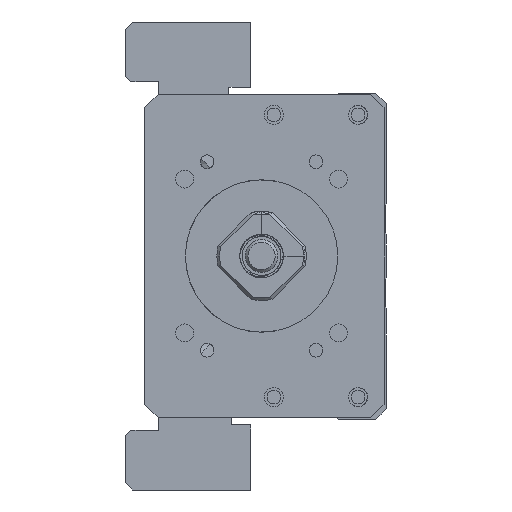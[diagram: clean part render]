
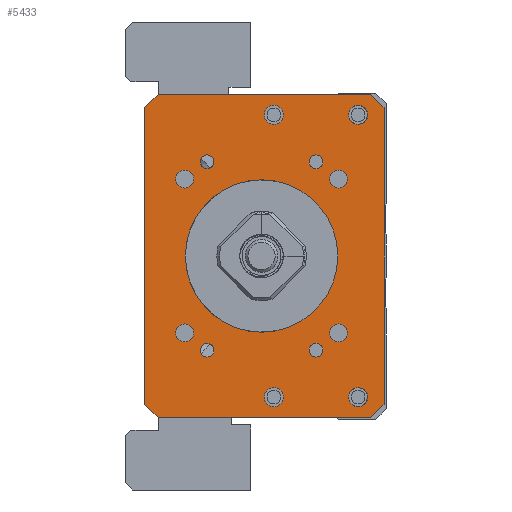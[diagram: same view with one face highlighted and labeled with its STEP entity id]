
A CAD part, left-side view. The second image highlights one B-rep face of the part: STEP entity #5433.
In plain terms, the highlighted planar face has unit normal (-1, 0, 0).
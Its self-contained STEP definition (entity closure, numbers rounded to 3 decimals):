
#4440=FACE_BOUND('',#7117,.T.);
#4441=FACE_BOUND('',#7118,.T.);
#4442=FACE_BOUND('',#7119,.T.);
#4443=FACE_BOUND('',#7120,.T.);
#4444=FACE_BOUND('',#7121,.T.);
#4445=FACE_BOUND('',#7122,.T.);
#4446=FACE_BOUND('',#7123,.T.);
#4447=FACE_BOUND('',#7124,.T.);
#4448=FACE_BOUND('',#7125,.T.);
#4449=FACE_BOUND('',#7126,.T.);
#4450=FACE_BOUND('',#7127,.T.);
#4451=FACE_BOUND('',#7128,.T.);
#4452=FACE_BOUND('',#7129,.T.);
#4453=FACE_BOUND('',#7130,.T.);
#4854=CIRCLE('',#15547,14.);
#4863=CIRCLE('',#15558,1.65);
#4864=CIRCLE('',#15559,1.65);
#4865=CIRCLE('',#15560,1.65);
#4866=CIRCLE('',#15561,1.65);
#4867=CIRCLE('',#15562,1.25);
#4868=CIRCLE('',#15563,1.75);
#4869=CIRCLE('',#15564,1.25);
#4870=CIRCLE('',#15565,1.75);
#4871=CIRCLE('',#15566,1.25);
#4872=CIRCLE('',#15567,1.75);
#4873=CIRCLE('',#15568,1.75);
#4874=CIRCLE('',#15569,1.25);
#5433=ADVANCED_FACE('',(#4440,#4441,#4442,#4443,#4444,#4445,#4446,#4447,
#4448,#4449,#4450,#4451,#4452,#4453),#6002,.F.);
#6002=PLANE('',#15570);
#7117=EDGE_LOOP('',(#9214));
#7118=EDGE_LOOP('',(#9215));
#7119=EDGE_LOOP('',(#9216));
#7120=EDGE_LOOP('',(#9217));
#7121=EDGE_LOOP('',(#9218));
#7122=EDGE_LOOP('',(#9219));
#7123=EDGE_LOOP('',(#9220));
#7124=EDGE_LOOP('',(#9221));
#7125=EDGE_LOOP('',(#9222));
#7126=EDGE_LOOP('',(#9223,#9224,#9225,#9226,#9227,#9228,#9229,#9230));
#7127=EDGE_LOOP('',(#9231));
#7128=EDGE_LOOP('',(#9232));
#7129=EDGE_LOOP('',(#9233));
#7130=EDGE_LOOP('',(#9234));
#9214=ORIENTED_EDGE('',*,*,#12499,.F.);
#9215=ORIENTED_EDGE('',*,*,#12500,.F.);
#9216=ORIENTED_EDGE('',*,*,#12501,.F.);
#9217=ORIENTED_EDGE('',*,*,#12502,.F.);
#9218=ORIENTED_EDGE('',*,*,#12503,.F.);
#9219=ORIENTED_EDGE('',*,*,#12504,.T.);
#9220=ORIENTED_EDGE('',*,*,#12505,.F.);
#9221=ORIENTED_EDGE('',*,*,#12506,.F.);
#9222=ORIENTED_EDGE('',*,*,#12507,.F.);
#9223=ORIENTED_EDGE('',*,*,#12496,.T.);
#9224=ORIENTED_EDGE('',*,*,#12508,.T.);
#9225=ORIENTED_EDGE('',*,*,#12509,.F.);
#9226=ORIENTED_EDGE('',*,*,#12510,.T.);
#9227=ORIENTED_EDGE('',*,*,#12511,.F.);
#9228=ORIENTED_EDGE('',*,*,#12512,.T.);
#9229=ORIENTED_EDGE('',*,*,#12513,.T.);
#9230=ORIENTED_EDGE('',*,*,#12514,.T.);
#9231=ORIENTED_EDGE('',*,*,#12515,.F.);
#9232=ORIENTED_EDGE('',*,*,#12516,.F.);
#9233=ORIENTED_EDGE('',*,*,#12517,.F.);
#9234=ORIENTED_EDGE('',*,*,#12476,.F.);
#11190=VERTEX_POINT('',#21579);
#11210=VERTEX_POINT('',#21639);
#11211=VERTEX_POINT('',#21641);
#11213=VERTEX_POINT('',#21647);
#11214=VERTEX_POINT('',#21649);
#11215=VERTEX_POINT('',#21651);
#11216=VERTEX_POINT('',#21653);
#11217=VERTEX_POINT('',#21655);
#11218=VERTEX_POINT('',#21657);
#11219=VERTEX_POINT('',#21659);
#11220=VERTEX_POINT('',#21661);
#11221=VERTEX_POINT('',#21663);
#11222=VERTEX_POINT('',#21665);
#11223=VERTEX_POINT('',#21667);
#11224=VERTEX_POINT('',#21669);
#11225=VERTEX_POINT('',#21671);
#11226=VERTEX_POINT('',#21673);
#11227=VERTEX_POINT('',#21675);
#11228=VERTEX_POINT('',#21678);
#11229=VERTEX_POINT('',#21680);
#11230=VERTEX_POINT('',#21682);
#12476=EDGE_CURVE('',#11190,#11190,#4854,.T.);
#12496=EDGE_CURVE('',#11211,#11210,#13764,.T.);
#12499=EDGE_CURVE('',#11213,#11213,#4863,.T.);
#12500=EDGE_CURVE('',#11214,#11214,#4864,.T.);
#12501=EDGE_CURVE('',#11215,#11215,#4865,.T.);
#12502=EDGE_CURVE('',#11216,#11216,#4866,.T.);
#12503=EDGE_CURVE('',#11217,#11217,#4867,.T.);
#12504=EDGE_CURVE('',#11218,#11218,#4868,.T.);
#12505=EDGE_CURVE('',#11219,#11219,#4869,.T.);
#12506=EDGE_CURVE('',#11220,#11220,#4870,.T.);
#12507=EDGE_CURVE('',#11221,#11221,#4871,.T.);
#12508=EDGE_CURVE('',#11210,#11222,#13766,.T.);
#12509=EDGE_CURVE('',#11223,#11222,#13767,.T.);
#12510=EDGE_CURVE('',#11223,#11224,#13768,.T.);
#12511=EDGE_CURVE('',#11225,#11224,#13769,.T.);
#12512=EDGE_CURVE('',#11225,#11226,#13770,.T.);
#12513=EDGE_CURVE('',#11226,#11227,#13771,.T.);
#12514=EDGE_CURVE('',#11227,#11211,#13772,.T.);
#12515=EDGE_CURVE('',#11228,#11228,#4872,.T.);
#12516=EDGE_CURVE('',#11229,#11229,#4873,.T.);
#12517=EDGE_CURVE('',#11230,#11230,#4874,.T.);
#13764=LINE('',#21640,#14671);
#13766=LINE('',#21664,#14673);
#13767=LINE('',#21666,#14674);
#13768=LINE('',#21668,#14675);
#13769=LINE('',#21670,#14676);
#13770=LINE('',#21672,#14677);
#13771=LINE('',#21674,#14678);
#13772=LINE('',#21676,#14679);
#14671=VECTOR('',#17774,1.);
#14673=VECTOR('',#17798,1.);
#14674=VECTOR('',#17799,1.);
#14675=VECTOR('',#17800,1.);
#14676=VECTOR('',#17801,1.);
#14677=VECTOR('',#17802,1.);
#14678=VECTOR('',#17803,1.);
#14679=VECTOR('',#17804,1.);
#15547=AXIS2_PLACEMENT_3D('',#21578,#17748,#17749);
#15558=AXIS2_PLACEMENT_3D('',#21646,#17780,#17781);
#15559=AXIS2_PLACEMENT_3D('',#21648,#17782,#17783);
#15560=AXIS2_PLACEMENT_3D('',#21650,#17784,#17785);
#15561=AXIS2_PLACEMENT_3D('',#21652,#17786,#17787);
#15562=AXIS2_PLACEMENT_3D('',#21654,#17788,#17789);
#15563=AXIS2_PLACEMENT_3D('',#21656,#17790,#17791);
#15564=AXIS2_PLACEMENT_3D('',#21658,#17792,#17793);
#15565=AXIS2_PLACEMENT_3D('',#21660,#17794,#17795);
#15566=AXIS2_PLACEMENT_3D('',#21662,#17796,#17797);
#15567=AXIS2_PLACEMENT_3D('',#21677,#17805,#17806);
#15568=AXIS2_PLACEMENT_3D('',#21679,#17807,#17808);
#15569=AXIS2_PLACEMENT_3D('',#21681,#17809,#17810);
#15570=AXIS2_PLACEMENT_3D('',#21683,#17811,#17812);
#17748=DIRECTION('',(-1.,0.,0.));
#17749=DIRECTION('',(0.,1.,0.));
#17774=DIRECTION('',(0.,0.,-1.));
#17780=DIRECTION('',(-1.,0.,0.));
#17781=DIRECTION('',(0.,0.,1.));
#17782=DIRECTION('',(-1.,0.,0.));
#17783=DIRECTION('',(0.,0.,1.));
#17784=DIRECTION('',(-1.,0.,0.));
#17785=DIRECTION('',(0.,0.,1.));
#17786=DIRECTION('',(-1.,0.,0.));
#17787=DIRECTION('',(0.,0.,1.));
#17788=DIRECTION('',(-1.,0.,0.));
#17789=DIRECTION('',(0.,1.,0.));
#17790=DIRECTION('',(1.,0.,0.));
#17791=DIRECTION('',(0.,0.,1.));
#17792=DIRECTION('',(-1.,0.,0.));
#17793=DIRECTION('',(0.,1.,0.));
#17794=DIRECTION('',(-1.,0.,0.));
#17795=DIRECTION('',(0.,0.,1.));
#17796=DIRECTION('',(-1.,0.,0.));
#17797=DIRECTION('',(0.,1.,0.));
#17798=DIRECTION('',(0.,-0.707,-0.707));
#17799=DIRECTION('',(0.,1.,0.));
#17800=DIRECTION('',(0.,-0.707,0.707));
#17801=DIRECTION('',(0.,0.,-1.));
#17802=DIRECTION('',(0.,0.707,0.707));
#17803=DIRECTION('',(0.,1.,0.));
#17804=DIRECTION('',(0.,0.707,-0.707));
#17805=DIRECTION('',(-1.,0.,0.));
#17806=DIRECTION('',(0.,0.,1.));
#17807=DIRECTION('',(-1.,0.,0.));
#17808=DIRECTION('',(0.,0.,1.));
#17809=DIRECTION('',(-1.,0.,0.));
#17810=DIRECTION('',(0.,1.,0.));
#17811=DIRECTION('',(1.,0.,0.));
#17812=DIRECTION('',(0.,1.,0.));
#21578=CARTESIAN_POINT('',(-211.,0.,-200.));
#21579=CARTESIAN_POINT('',(-211.,14.,-200.));
#21639=CARTESIAN_POINT('',(-211.,21.499,-227.25));
#21640=CARTESIAN_POINT('',(-211.,21.499,-170.25));
#21641=CARTESIAN_POINT('',(-211.,21.499,-172.75));
#21646=CARTESIAN_POINT('',(-211.,14.142,-185.858));
#21647=CARTESIAN_POINT('',(-211.,14.142,-184.208));
#21648=CARTESIAN_POINT('',(-211.,-14.142,-185.858));
#21649=CARTESIAN_POINT('',(-211.,-14.142,-184.208));
#21650=CARTESIAN_POINT('',(-211.,14.142,-214.142));
#21651=CARTESIAN_POINT('',(-211.,14.142,-212.492));
#21652=CARTESIAN_POINT('',(-211.,-14.142,-214.142));
#21653=CARTESIAN_POINT('',(-211.,-14.142,-212.492));
#21654=CARTESIAN_POINT('',(-211.,-10.,-217.321));
#21655=CARTESIAN_POINT('',(-211.,-8.75,-217.321));
#21656=CARTESIAN_POINT('',(-211.,-2.25,-225.936));
#21657=CARTESIAN_POINT('',(-211.,-2.25,-224.186));
#21658=CARTESIAN_POINT('',(-211.,10.,-182.679));
#21659=CARTESIAN_POINT('',(-211.,11.25,-182.679));
#21660=CARTESIAN_POINT('',(-211.,-2.25,-174.064));
#21661=CARTESIAN_POINT('',(-211.,-2.25,-172.314));
#21662=CARTESIAN_POINT('',(-211.,10.,-217.321));
#21663=CARTESIAN_POINT('',(-211.,11.25,-217.321));
#21664=CARTESIAN_POINT('',(-211.,18.999,-229.75));
#21665=CARTESIAN_POINT('',(-211.,18.999,-229.75));
#21666=CARTESIAN_POINT('',(-211.,-22.501,-229.75));
#21667=CARTESIAN_POINT('',(-211.,-20.001,-229.75));
#21668=CARTESIAN_POINT('',(-211.,-22.501,-227.25));
#21669=CARTESIAN_POINT('',(-211.,-22.501,-227.25));
#21670=CARTESIAN_POINT('',(-211.,-22.501,-170.25));
#21671=CARTESIAN_POINT('',(-211.,-22.501,-172.75));
#21672=CARTESIAN_POINT('',(-211.,-22.501,-172.75));
#21673=CARTESIAN_POINT('',(-211.,-20.001,-170.25));
#21674=CARTESIAN_POINT('',(-211.,-22.501,-170.25));
#21675=CARTESIAN_POINT('',(-211.,18.999,-170.25));
#21676=CARTESIAN_POINT('',(-211.,18.999,-170.25));
#21677=CARTESIAN_POINT('',(-211.,-17.75,-174.064));
#21678=CARTESIAN_POINT('',(-211.,-17.75,-172.314));
#21679=CARTESIAN_POINT('',(-211.,-17.75,-225.936));
#21680=CARTESIAN_POINT('',(-211.,-17.75,-224.186));
#21681=CARTESIAN_POINT('',(-211.,-10.,-182.679));
#21682=CARTESIAN_POINT('',(-211.,-8.75,-182.679));
#21683=CARTESIAN_POINT('',(-211.,-22.501,-170.25));
